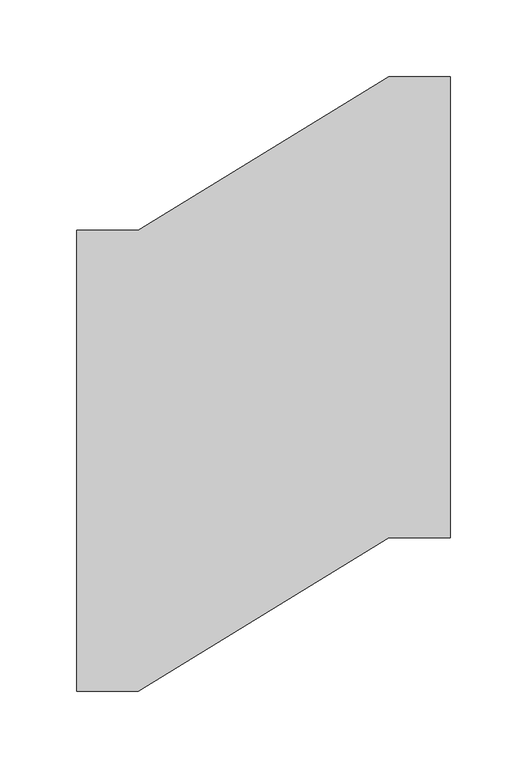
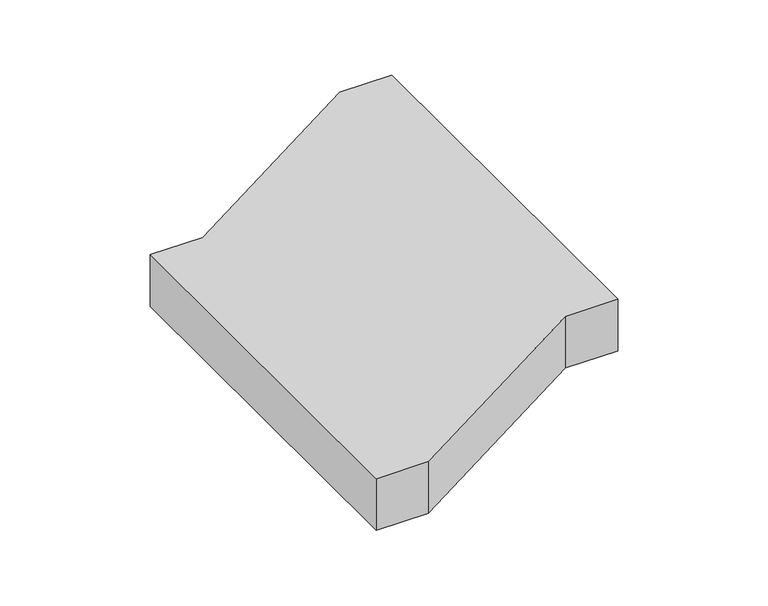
"""IFC4 building model written with IfcOpenShell, lengths in millimetres: cable carrier fitting geometry, BAKS_Horizontal bypass : OPZNJ_H42."""

from ifc_helpers import new_model, si_unit, frame, origin, place, context, project, spatial, polyline, outline, extrude, source, transform, mapped, element, save


def cable_carrier_fitting_efa56db2(model_context):
    return source(origin(), model_context, "Body", "SweptSolid", [
        extrude(outline(polyline([(-81.5, 150.0), (81.5, 250.0), (121.5, 250.0), (121.5, -50.0), (81.5, -50.0), (-81.5, -150.0), (-121.5, -150.0), (-121.5, 150.0), (-81.5, 150.0)])), frame((0.0, 0.0, -21.0), z_axis=(0.0, 0.0, 1.0), x_axis=(1.0, 0.0, 0.0)), (0.0, 0.0, 1.0), 42.0),
    ])


if __name__ == "__main__":
    model = new_model("IFC4")
    model_context = context("Model", 3, world=origin())
    ifc_project = project(units=[si_unit("LENGTHUNIT", "METRE", prefix="MILLI")], contexts=[model_context])
    site = spatial("IfcSite", under=ifc_project)
    building = spatial("IfcBuilding", under=site)
    placement = place(None, origin())
    cable_carrier_fitting_shape = cable_carrier_fitting_efa56db2(model_context)
    element("IfcCableCarrierFitting", 1, ObjectType="BAKS_Horizontal bypass : OPZNJ_H42", at=placement, inside=building, context=model_context, shape_type="MappedRepresentation", body=[
        mapped(cable_carrier_fitting_shape, transform((0.0, 0.0, 0.0), x_axis=(1.0, 0.0, 0.0), y_axis=(0.0, 1.0, 0.0), z_axis=(0.0, 0.0, 1.0))),
    ])
    save(model, "model.ifc")
